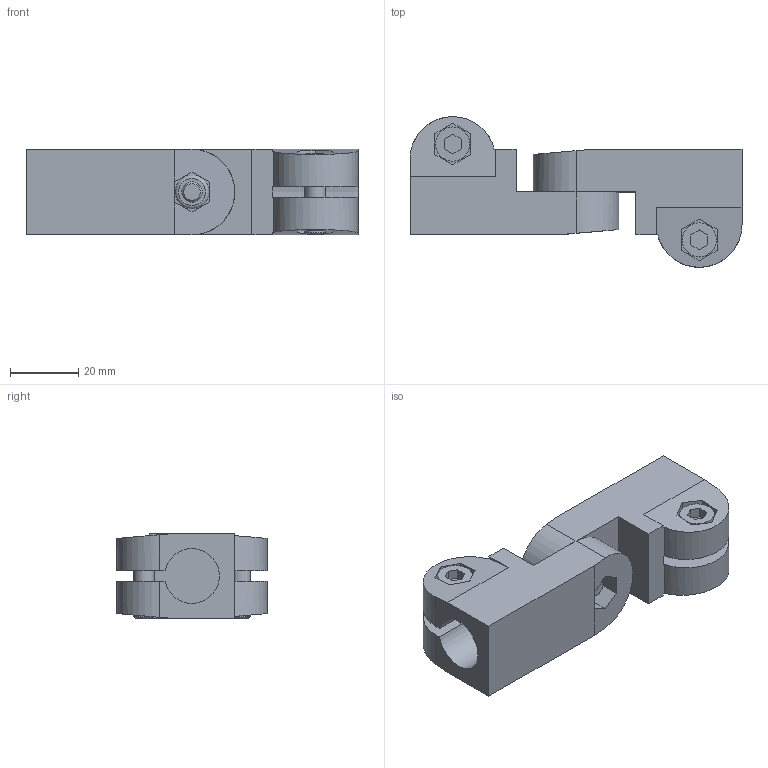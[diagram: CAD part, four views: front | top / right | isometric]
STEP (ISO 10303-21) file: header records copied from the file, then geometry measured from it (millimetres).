
FILE_DESCRIPTION( ( 'STEP AP203' ), '1' );
FILE_NAME( 'C:/Temp/Ganter_Step_05_03_2020/data/3_7/285/Swivel clamp connector joint GN 285-B16-B16-2-SW (0).stp', '2020-03-12T14:32:54', ( 'License CC BY-ND 4.0' ), ( 'CADENAS' ), ' ', 'PARTsolutions', ' ' );
FILE_SCHEMA( ( 'CONFIG_CONTROL_DESIGN' ) );
Length unit declared in the file: millimetre
Products named in the file (5): Swivel clamp connector joint GN 285-B16-B16-2-SW (0); _Swivel clamp connector base GN 285-B16-B16-2-SW-1; _Swivel clamp connector base GN 285-B16-B16-2-SW (0)-2; _Screw GN 285-M6-2; _Nut GN 285-M6-1
Assembly tree (4 placements, depth 2):
  Swivel clamp connector joint GN 285-B16-B16-2-SW (0)
    _Swivel clamp connector base GN 285-B16-B16-2-SW-1
    _Swivel clamp connector base GN 285-B16-B16-2-SW (0)-2
    _Screw GN 285-M6-2
    _Nut GN 285-M6-1
Bounding box: 97 x 44 x 25 mm (x, y, z)
Volume: 50221.3 mm3; surface area: 20960 mm2
Topology: 4 solids, 4 shells, 160 faces, 394 edges, 260 vertices
Faces by surface type: plane 126, cylinder 24, cone 8, torus 2
Full cylindrical faces by diameter (mm): 4.917 x1, 6 x5, 6.5 x2, 7 x4, 9.84 x1, 10 x3
Entity records: 4738 total; most frequent: CARTESIAN_POINT 886, DIRECTION 734, ORIENTED_EDGE 720, EDGE_CURVE 360, LINE 292, VECTOR 292, VERTEX_POINT 253, AXIS2_PLACEMENT_3D 221
